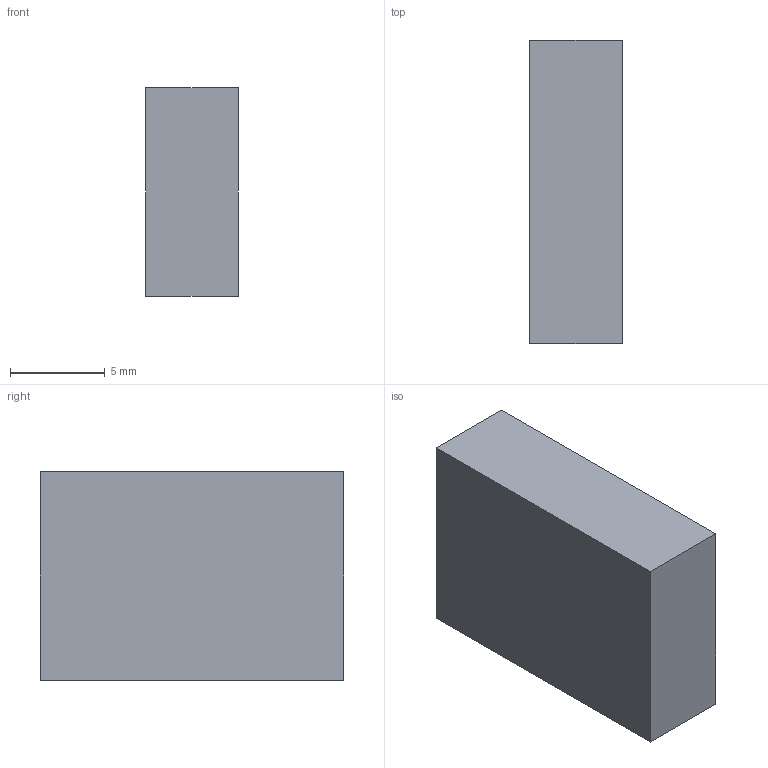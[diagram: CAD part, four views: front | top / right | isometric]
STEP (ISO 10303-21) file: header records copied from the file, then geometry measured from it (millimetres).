
FILE_DESCRIPTION(/* description */ (''),/* implementation_level */ '2;1');
FILE_NAME(/* name */ 'CHECK_J3_PHR_and_wire_turn.step',/* time_stamp */ '2026-09-16T19:15:04-07:00',/* author */ (''),/* organization */ (''),/* preprocessor_version */ 'ST-DEVELOPER v20.1',/* originating_system */ 'Autodesk Translation Framework v15.8.0.0',/* authorisation */ '');
FILE_SCHEMA (('AUTOMOTIVE_DESIGN { 1 0 10303 214 3 1 1 }'));
Length unit declared in the file: centimetre
Products named in the file (1): 2026-09-16-19-15-04-734
Bounding box: 4.9 x 16 x 11.02 mm (x, y, z)
Volume: 863.6 mm3; surface area: 617.2 mm2
Topology: 1 solids, 1 shells, 6 faces, 12 edges, 8 vertices
Faces by surface type: plane 6
Entity records: 196 total; most frequent: CARTESIAN_POINT 27, DIRECTION 26, ORIENTED_EDGE 24, LINE 12, VECTOR 12, EDGE_CURVE 12, VERTEX_POINT 8, AXIS2_PLACEMENT_3D 7
